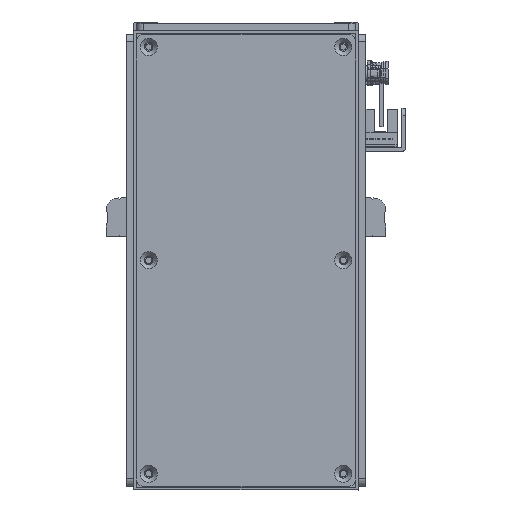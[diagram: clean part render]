
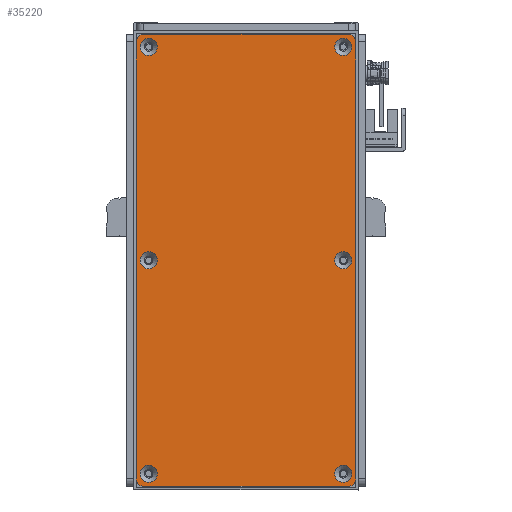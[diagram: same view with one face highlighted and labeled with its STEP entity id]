
A CAD part, front view. The second image highlights one B-rep face of the part: STEP entity #35220.
In plain terms, the highlighted planar face has unit normal (0, -1, 0) as drawn and (0, 0, 1) by its records, which use the part's own axes.
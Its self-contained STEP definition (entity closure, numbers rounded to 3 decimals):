
#4701=FACE_BOUND('',#8452,.T.);
#4702=FACE_BOUND('',#8453,.T.);
#4703=FACE_BOUND('',#8454,.T.);
#4704=FACE_BOUND('',#8455,.T.);
#4705=FACE_BOUND('',#8456,.T.);
#4706=FACE_BOUND('',#8457,.T.);
#6338=FACE_OUTER_BOUND('',#8451,.T.);
#8451=EDGE_LOOP('',(#32131,#32132,#32133,#32134,#32135,#32136,#32137,#32138));
#8452=EDGE_LOOP('',(#32139));
#8453=EDGE_LOOP('',(#32140));
#8454=EDGE_LOOP('',(#32141));
#8455=EDGE_LOOP('',(#32142));
#8456=EDGE_LOOP('',(#32143));
#8457=EDGE_LOOP('',(#32144));
#10165=CIRCLE('',#39699,3.45);
#10168=CIRCLE('',#39704,3.45);
#10171=CIRCLE('',#39709,3.45);
#10174=CIRCLE('',#39714,3.45);
#10177=CIRCLE('',#39719,3.45);
#10180=CIRCLE('',#39724,3.45);
#10187=CIRCLE('',#39734,3.);
#10188=CIRCLE('',#39737,3.);
#10189=CIRCLE('',#39740,3.);
#10190=CIRCLE('',#39743,3.);
#12865=LINE('',#61907,#15653);
#12868=LINE('',#61915,#15656);
#12871=LINE('',#61923,#15659);
#12874=LINE('',#61930,#15662);
#15653=VECTOR('',#49352,10.);
#15656=VECTOR('',#49361,10.);
#15659=VECTOR('',#49370,10.);
#15662=VECTOR('',#49379,10.);
#18709=VERTEX_POINT('',#61823);
#18712=VERTEX_POINT('',#61833);
#18715=VERTEX_POINT('',#61843);
#18718=VERTEX_POINT('',#61853);
#18721=VERTEX_POINT('',#61863);
#18724=VERTEX_POINT('',#61873);
#18735=VERTEX_POINT('',#61900);
#18736=VERTEX_POINT('',#61902);
#18737=VERTEX_POINT('',#61906);
#18738=VERTEX_POINT('',#61910);
#18739=VERTEX_POINT('',#61914);
#18740=VERTEX_POINT('',#61918);
#18741=VERTEX_POINT('',#61922);
#18742=VERTEX_POINT('',#61926);
#23189=EDGE_CURVE('',#18709,#18709,#10165,.T.);
#23194=EDGE_CURVE('',#18712,#18712,#10168,.T.);
#23199=EDGE_CURVE('',#18715,#18715,#10171,.T.);
#23204=EDGE_CURVE('',#18718,#18718,#10174,.T.);
#23209=EDGE_CURVE('',#18721,#18721,#10177,.T.);
#23214=EDGE_CURVE('',#18724,#18724,#10180,.T.);
#23228=EDGE_CURVE('',#18736,#18735,#10187,.T.);
#23230=EDGE_CURVE('',#18737,#18736,#12865,.T.);
#23232=EDGE_CURVE('',#18738,#18737,#10188,.T.);
#23234=EDGE_CURVE('',#18739,#18738,#12868,.T.);
#23236=EDGE_CURVE('',#18740,#18739,#10189,.T.);
#23238=EDGE_CURVE('',#18741,#18740,#12871,.T.);
#23240=EDGE_CURVE('',#18742,#18741,#10190,.T.);
#23242=EDGE_CURVE('',#18735,#18742,#12874,.T.);
#32131=ORIENTED_EDGE('',*,*,#23242,.T.);
#32132=ORIENTED_EDGE('',*,*,#23240,.T.);
#32133=ORIENTED_EDGE('',*,*,#23238,.T.);
#32134=ORIENTED_EDGE('',*,*,#23236,.T.);
#32135=ORIENTED_EDGE('',*,*,#23234,.T.);
#32136=ORIENTED_EDGE('',*,*,#23232,.T.);
#32137=ORIENTED_EDGE('',*,*,#23230,.T.);
#32138=ORIENTED_EDGE('',*,*,#23228,.T.);
#32139=ORIENTED_EDGE('',*,*,#23189,.T.);
#32140=ORIENTED_EDGE('',*,*,#23194,.T.);
#32141=ORIENTED_EDGE('',*,*,#23199,.T.);
#32142=ORIENTED_EDGE('',*,*,#23204,.T.);
#32143=ORIENTED_EDGE('',*,*,#23209,.T.);
#32144=ORIENTED_EDGE('',*,*,#23214,.T.);
#33576=PLANE('',#39745);
#35220=ADVANCED_FACE('',(#6338,#4701,#4702,#4703,#4704,#4705,#4706),#33576,
 .T.);
#39699=AXIS2_PLACEMENT_3D('',#61824,#49260,#49261);
#39704=AXIS2_PLACEMENT_3D('',#61834,#49272,#49273);
#39709=AXIS2_PLACEMENT_3D('',#61844,#49284,#49285);
#39714=AXIS2_PLACEMENT_3D('',#61854,#49296,#49297);
#39719=AXIS2_PLACEMENT_3D('',#61864,#49308,#49309);
#39724=AXIS2_PLACEMENT_3D('',#61874,#49320,#49321);
#39734=AXIS2_PLACEMENT_3D('',#61903,#49347,#49348);
#39737=AXIS2_PLACEMENT_3D('',#61911,#49356,#49357);
#39740=AXIS2_PLACEMENT_3D('',#61919,#49365,#49366);
#39743=AXIS2_PLACEMENT_3D('',#61927,#49374,#49375);
#39745=AXIS2_PLACEMENT_3D('',#61931,#49380,#49381);
#49260=DIRECTION('center_axis',(0.,0.,-1.));
#49261=DIRECTION('ref_axis',(1.,0.,0.));
#49272=DIRECTION('center_axis',(0.,0.,-1.));
#49273=DIRECTION('ref_axis',(1.,0.,0.));
#49284=DIRECTION('center_axis',(0.,0.,-1.));
#49285=DIRECTION('ref_axis',(1.,0.,0.));
#49296=DIRECTION('center_axis',(0.,0.,-1.));
#49297=DIRECTION('ref_axis',(1.,0.,0.));
#49308=DIRECTION('center_axis',(0.,0.,-1.));
#49309=DIRECTION('ref_axis',(1.,0.,0.));
#49320=DIRECTION('center_axis',(0.,0.,-1.));
#49321=DIRECTION('ref_axis',(1.,0.,0.));
#49347=DIRECTION('center_axis',(0.,0.,1.));
#49348=DIRECTION('ref_axis',(0.,1.,0.));
#49352=DIRECTION('',(-1.,0.,0.));
#49356=DIRECTION('center_axis',(0.,0.,1.));
#49357=DIRECTION('ref_axis',(1.,0.,0.));
#49361=DIRECTION('',(0.,1.,0.));
#49365=DIRECTION('center_axis',(0.,0.,1.));
#49366=DIRECTION('ref_axis',(0.,-1.,0.));
#49370=DIRECTION('',(1.,0.,0.));
#49374=DIRECTION('center_axis',(0.,0.,1.));
#49375=DIRECTION('ref_axis',(-1.,0.,0.));
#49379=DIRECTION('',(0.,-1.,0.));
#49380=DIRECTION('center_axis',(0.,0.,1.));
#49381=DIRECTION('ref_axis',(1.,0.,0.));
#61823=CARTESIAN_POINT('',(-3.45,39.,1.5));
#61824=CARTESIAN_POINT('Origin',(0.,39.,1.5));
#61833=CARTESIAN_POINT('',(82.05,-39.,1.5));
#61834=CARTESIAN_POINT('Origin',(85.5,-39.,1.5));
#61843=CARTESIAN_POINT('',(-88.95,39.,1.5));
#61844=CARTESIAN_POINT('Origin',(-85.5,39.,1.5));
#61853=CARTESIAN_POINT('',(82.05,39.,1.5));
#61854=CARTESIAN_POINT('Origin',(85.5,39.,1.5));
#61863=CARTESIAN_POINT('',(-88.95,-39.,1.5));
#61864=CARTESIAN_POINT('Origin',(-85.5,-39.,1.5));
#61873=CARTESIAN_POINT('',(-3.45,-39.,1.5));
#61874=CARTESIAN_POINT('Origin',(0.,-39.,1.5));
#61900=CARTESIAN_POINT('',(-90.5,41.,1.5));
#61902=CARTESIAN_POINT('',(-87.5,44.,1.5));
#61903=CARTESIAN_POINT('Origin',(-87.5,41.,1.5));
#61906=CARTESIAN_POINT('',(87.5,44.,1.5));
#61907=CARTESIAN_POINT('',(87.5,44.,1.5));
#61910=CARTESIAN_POINT('',(90.5,41.,1.5));
#61911=CARTESIAN_POINT('Origin',(87.5,41.,1.5));
#61914=CARTESIAN_POINT('',(90.5,-41.,1.5));
#61915=CARTESIAN_POINT('',(90.5,-41.,1.5));
#61918=CARTESIAN_POINT('',(87.5,-44.,1.5));
#61919=CARTESIAN_POINT('Origin',(87.5,-41.,1.5));
#61922=CARTESIAN_POINT('',(-87.5,-44.,1.5));
#61923=CARTESIAN_POINT('',(-87.5,-44.,1.5));
#61926=CARTESIAN_POINT('',(-90.5,-41.,1.5));
#61927=CARTESIAN_POINT('Origin',(-87.5,-41.,1.5));
#61930=CARTESIAN_POINT('',(-90.5,41.,1.5));
#61931=CARTESIAN_POINT('Origin',(0.,0.,
1.5));
